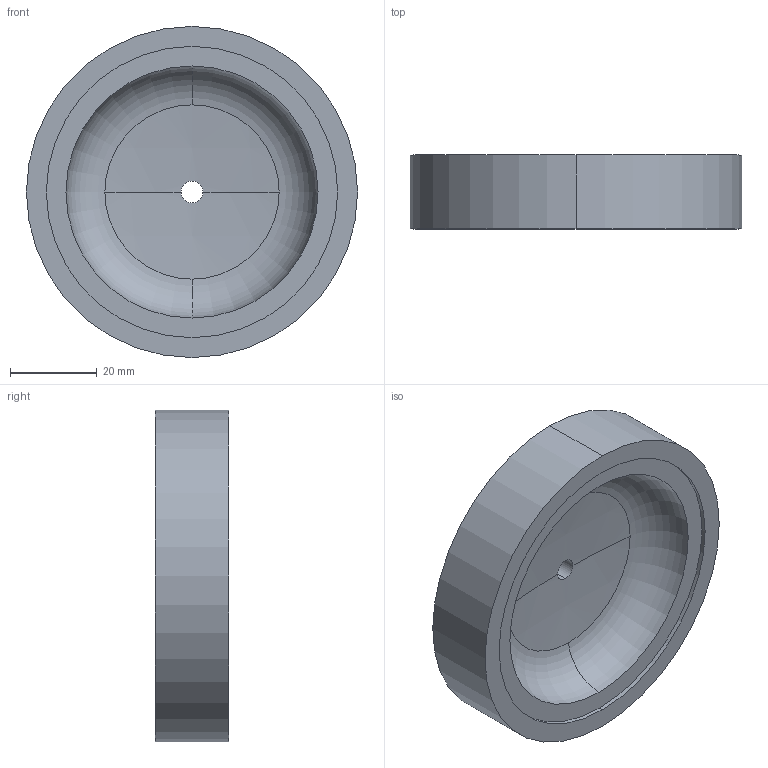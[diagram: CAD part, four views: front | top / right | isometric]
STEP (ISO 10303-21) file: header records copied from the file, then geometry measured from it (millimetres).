
FILE_DESCRIPTION (( 'STEP AP203' ), '1' );
FILE_NAME ('Top.STEP', '2020-03-10T17:52:12', ( '' ), ( '' ), 'SwSTEP 2.0', 'SolidWorks 2018', '' );
FILE_SCHEMA (( 'CONFIG_CONTROL_DESIGN' ));
Length unit declared in the file: millimetre
Products named in the file (1): Top
Bounding box: 76.2 x 17 x 76.2 mm (x, y, z)
Volume: 50491 mm3; surface area: 14439.2 mm2
Topology: 1 solids, 1 shells, 13 faces, 30 edges, 20 vertices
Faces by surface type: cylinder 6, plane 3, torus 2, sphere 2
Entity records: 469 total; most frequent: DIRECTION 82, CARTESIAN_POINT 64, ORIENTED_EDGE 60, AXIS2_PLACEMENT_3D 38, EDGE_CURVE 30, CIRCLE 24, VERTEX_POINT 20, EDGE_LOOP 16
